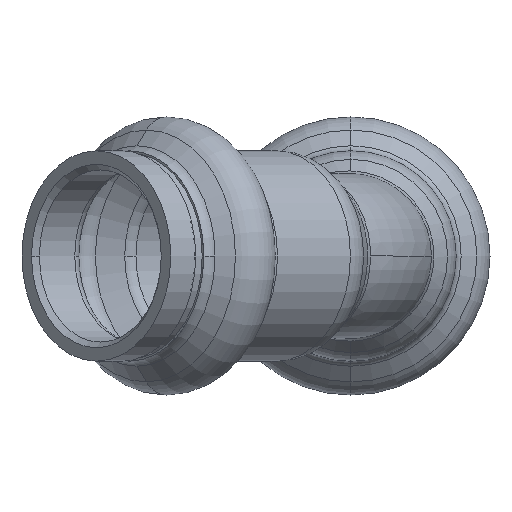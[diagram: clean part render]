
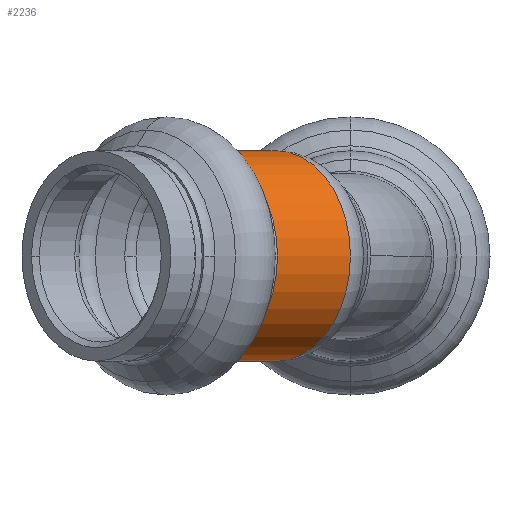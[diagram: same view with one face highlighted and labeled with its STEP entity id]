
A CAD part, left-side view. The second image highlights one B-rep face of the part: STEP entity #2236.
In plain terms, the highlighted cylindrical face has radius 7.45 mm (diameter 14.9 mm), a partial arc.
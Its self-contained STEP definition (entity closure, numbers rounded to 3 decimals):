
#130 = ORIENTED_EDGE ( 'NONE', *, *, #796, .T. ) ;
#139 = DIRECTION ( 'NONE',  ( 0., 0., -1. ) ) ;
#142 = DIRECTION ( 'NONE',  ( 0.707, -0.707, 0. ) ) ;
#154 = CARTESIAN_POINT ( 'NONE',  ( -25.175, 25.175, 0. ) ) ;
#190 = DIRECTION ( 'NONE',  ( -0.707, 0.707, 0. ) ) ;
#273 = DIRECTION ( 'NONE',  ( 0., 0., -1. ) ) ;
#286 = DIRECTION ( 'NONE',  ( 0.707, -0.707, 0. ) ) ;
#294 = CARTESIAN_POINT ( 'NONE',  ( -5.303, 5.303, 0. ) ) ;
#301 = CARTESIAN_POINT ( 'NONE',  ( -15.738, 5.203, 0. ) ) ;
#338 = CARTESIAN_POINT ( 'NONE',  ( -10.47, 10.47, -7.45 ) ) ;
#453 = DIRECTION ( 'NONE',  ( -0.707, 0.707, 0. ) ) ;
#491 = CARTESIAN_POINT ( 'NONE',  ( -25.175, 25.175, -7.45 ) ) ;
#511 = DIRECTION ( 'NONE',  ( -0.707, 0.707, 0. ) ) ;
#523 = CARTESIAN_POINT ( 'NONE',  ( -5.303, 5.303, 7.45 ) ) ;
#587 = CARTESIAN_POINT ( 'NONE',  ( -10.47, 10.47, 0. ) ) ;
#605 = ORIENTED_EDGE ( 'NONE', *, *, #2914, .T. ) ;
#671 = VERTEX_POINT ( 'NONE', #1569 ) ;
#751 = DIRECTION ( 'NONE',  ( 0.707, 0.707, 0. ) ) ;
#769 = AXIS2_PLACEMENT_3D ( 'NONE', #587, #142, #751 ) ;
#796 = EDGE_CURVE ( 'NONE', #3249, #1945, #3233, .T. ) ;
#904 = CARTESIAN_POINT ( 'NONE',  ( -5.303, 5.303, -7.45 ) ) ;
#1080 = AXIS2_PLACEMENT_3D ( 'NONE', #1989, #1999, #1979 ) ;
#1140 = EDGE_LOOP ( 'NONE', ( #3596, #605, #1408, #130, #2418 ) ) ;
#1408 = ORIENTED_EDGE ( 'NONE', *, *, #3139, .T. ) ;
#1429 = EDGE_CURVE ( 'NONE', #2453, #1945, #2843, .T. ) ;
#1569 = CARTESIAN_POINT ( 'NONE',  ( -10.47, 10.47, 7.45 ) ) ;
#1659 = VERTEX_POINT ( 'NONE', #523 ) ;
#1696 = AXIS2_PLACEMENT_3D ( 'NONE', #154, #190, #139 ) ;
#1945 = VERTEX_POINT ( 'NONE', #338 ) ;
#1979 = DIRECTION ( 'NONE',  ( 0.707, 0.707, 0. ) ) ;
#1989 = CARTESIAN_POINT ( 'NONE',  ( -10.47, 10.47, 0. ) ) ;
#1999 = DIRECTION ( 'NONE',  ( 0.707, -0.707, 0. ) ) ;
#2098 = CYLINDRICAL_SURFACE ( 'NONE', #1696, 7.45 ) ;
#2210 = VECTOR ( 'NONE', #453, 1000. ) ;
#2236 = ADVANCED_FACE ( 'NONE', ( #3077 ), #2098, .T. ) ;
#2290 = LINE ( 'NONE', #3009, #2916 ) ;
#2418 = ORIENTED_EDGE ( 'NONE', *, *, #1429, .F. ) ;
#2453 = VERTEX_POINT ( 'NONE', #904 ) ;
#2472 = AXIS2_PLACEMENT_3D ( 'NONE', #294, #286, #273 ) ;
#2843 = LINE ( 'NONE', #491, #2210 ) ;
#2914 = EDGE_CURVE ( 'NONE', #1659, #671, #2290, .T. ) ;
#2916 = VECTOR ( 'NONE', #511, 1000. ) ;
#3009 = CARTESIAN_POINT ( 'NONE',  ( -25.175, 25.175, 7.45 ) ) ;
#3077 = FACE_OUTER_BOUND ( 'NONE', #1140, .T. ) ;
#3139 = EDGE_CURVE ( 'NONE', #671, #3249, #3264, .T. ) ;
#3233 = CIRCLE ( 'NONE', #1080, 7.45 ) ;
#3249 = VERTEX_POINT ( 'NONE', #301 ) ;
#3260 = CIRCLE ( 'NONE', #2472, 7.45 ) ;
#3264 = CIRCLE ( 'NONE', #769, 7.45 ) ;
#3596 = ORIENTED_EDGE ( 'NONE', *, *, #3797, .F. ) ;
#3797 = EDGE_CURVE ( 'NONE', #1659, #2453, #3260, .T. ) ;
